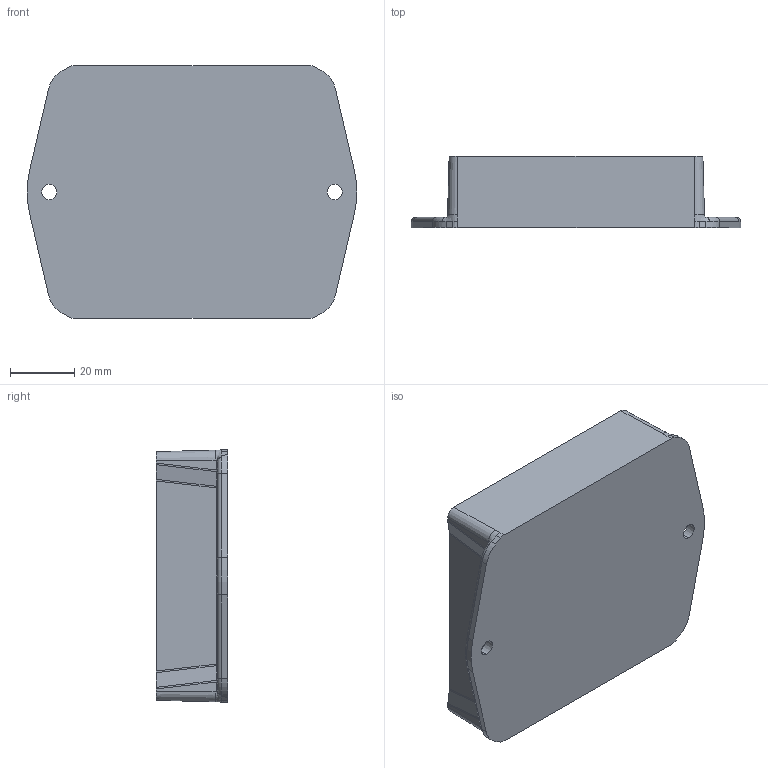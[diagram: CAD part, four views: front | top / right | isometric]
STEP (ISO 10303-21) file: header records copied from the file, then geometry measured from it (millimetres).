
FILE_DESCRIPTION (( 'STEP AP214' ), '1' );
FILE_NAME ('BX-3308BMB.STEP', '2010-11-03T20:36:19', ( 'Designer2010' ), ( '' ), 'SwSTEP 2.0', 'SolidWorks 2010', '' );
FILE_SCHEMA (( 'AUTOMOTIVE_DESIGN' ));
Length unit declared in the file: inch
Products named in the file (1): BX-3308BMB
Bounding box: 102.68 x 22.23 x 78.63 mm (x, y, z)
Volume: 31534.6 mm3; surface area: 27817.8 mm2
Topology: 1 solids, 1 shells, 123 faces, 324 edges, 212 vertices
Faces by surface type: cylinder 46, plane 37, cone 18, bspline 16, torus 6
Entity records: 12132 total; most frequent: CARTESIAN_POINT 9224, ORIENTED_EDGE 648, DIRECTION 546, EDGE_CURVE 324, VERTEX_POINT 212, AXIS2_PLACEMENT_3D 206, EDGE_LOOP 136, LINE 134
